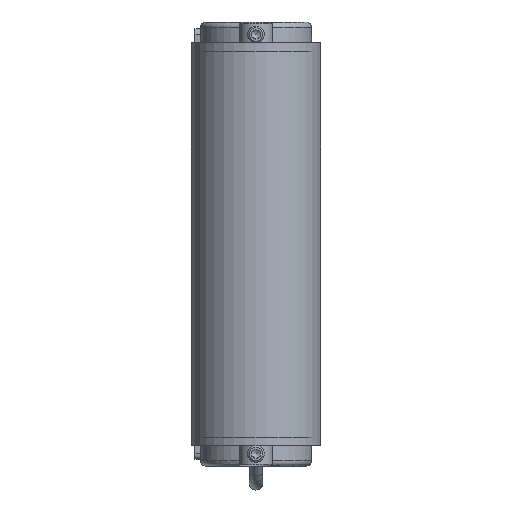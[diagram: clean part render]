
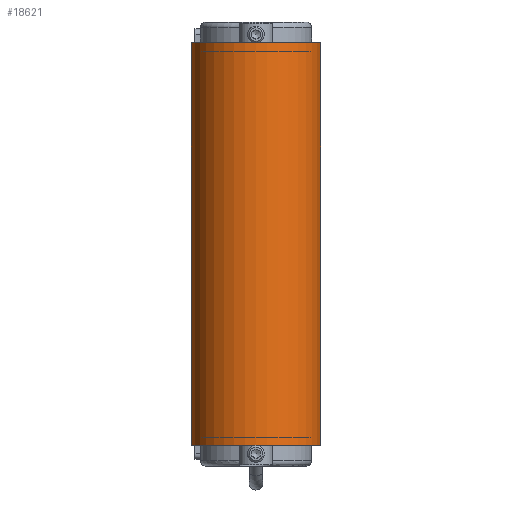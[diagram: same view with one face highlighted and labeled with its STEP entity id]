
A CAD part, front view. The second image highlights one B-rep face of the part: STEP entity #18621.
In plain terms, the highlighted cylindrical face has radius 23.3 mm (diameter 46.6 mm), a partial arc.
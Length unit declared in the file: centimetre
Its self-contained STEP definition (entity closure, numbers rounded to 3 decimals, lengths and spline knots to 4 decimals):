
#543=CYLINDRICAL_SURFACE('',#19904,2.33);
#1135=CIRCLE('',#19899,2.33);
#1138=CIRCLE('',#19905,2.33);
#1923=FACE_OUTER_BOUND('',#2936,.T.);
#2936=EDGE_LOOP('',(#12566,#12567,#12568,#12569));
#4213=LINE('',#27388,#5713);
#4214=LINE('',#27392,#5714);
#5713=VECTOR('',#22452,1.);
#5714=VECTOR('',#22457,1.);
#7376=VERTEX_POINT('',#27371);
#7377=VERTEX_POINT('',#27372);
#7382=VERTEX_POINT('',#27386);
#7383=VERTEX_POINT('',#27390);
#9405=EDGE_CURVE('',#7376,#7377,#1135,.T.);
#9413=EDGE_CURVE('',#7382,#7377,#4213,.T.);
#9414=EDGE_CURVE('',#7382,#7383,#1138,.T.);
#9415=EDGE_CURVE('',#7376,#7383,#4214,.T.);
#12566=ORIENTED_EDGE('',*,*,#9414,.T.);
#12567=ORIENTED_EDGE('',*,*,#9415,.F.);
#12568=ORIENTED_EDGE('',*,*,#9405,.T.);
#12569=ORIENTED_EDGE('',*,*,#9413,.F.);
#18621=ADVANCED_FACE('',(#1923),#543,.T.);
#19899=AXIS2_PLACEMENT_3D('',#27373,#22437,#22438);
#19904=AXIS2_PLACEMENT_3D('',#27389,#22453,#22454);
#19905=AXIS2_PLACEMENT_3D('',#27391,#22455,#22456);
#22437=DIRECTION('center_axis',(0.,0.,
-1.));
#22438=DIRECTION('ref_axis',(-1.,0.,0.));
#22452=DIRECTION('',(0.,0.,1.));
#22453=DIRECTION('center_axis',(0.,0.,
-1.));
#22454=DIRECTION('ref_axis',(-1.,0.,0.));
#22455=DIRECTION('center_axis',(0.,0.,
1.));
#22456=DIRECTION('ref_axis',(-1.,0.,0.));
#22457=DIRECTION('',(0.,0.,-1.));
#27371=CARTESIAN_POINT('',(2.33,-47.,7.25));
#27372=CARTESIAN_POINT('',(-2.33,-47.,7.25));
#27373=CARTESIAN_POINT('Origin',(0.,-47.,7.25));
#27386=CARTESIAN_POINT('',(-2.33,-47.,-7.25));
#27388=CARTESIAN_POINT('',(-2.33,-47.,0.));
#27389=CARTESIAN_POINT('Origin',(0.,-47.,0.));
#27390=CARTESIAN_POINT('',(2.33,-47.,-7.25));
#27391=CARTESIAN_POINT('Origin',(0.,-47.,-7.25));
#27392=CARTESIAN_POINT('',(2.33,-47.,0.));
